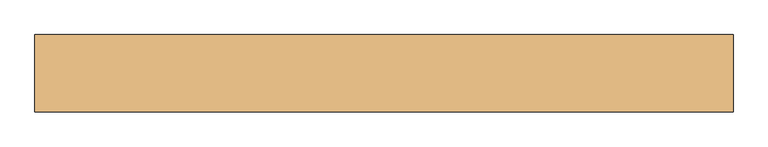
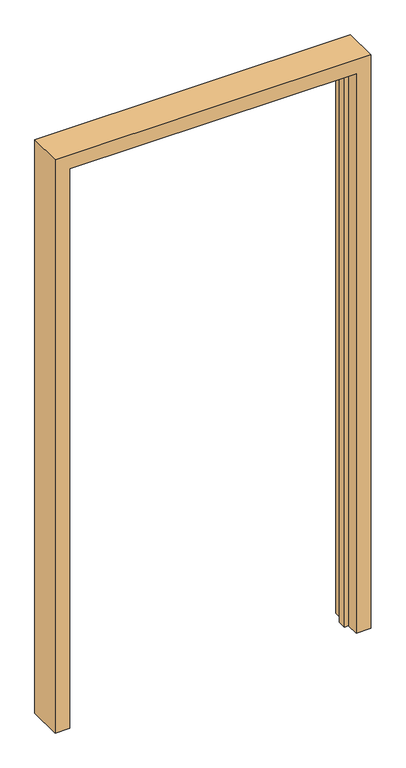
"""IFC4 building model written with IfcOpenShell, lengths in millimetres: door geometry, Door_Steel_Republic_Single-DoubleRabbet-Equal : ByType."""

from ifc_helpers import new_model, si_unit, origin, place, context, project, spatial, faceted_brep, source, transform, mapped, element, save


def door_5ed18baa(model_context):
    return source(origin(), model_context, "Body", "Brep", [
        faceted_brep([(2115.5906968, -797.6410438, 0.0), (2169.5906968, -797.6410438, 0.0), (2169.5906968, -927.6410438, 0.0), (2115.5906968, -927.6410438, 0.0), (2115.5906968, -878.4285438, 0.0), (2099.7156968, -878.4285438, 0.0), (2099.7156968, -846.8535438, 0.0), (2115.5906968, -846.8535438, 0.0), (2115.5906968, -797.6410438, 2200.0), (1048.5906968, -797.6410438, 2200.0), (1048.5906968, -797.6410438, 0.0), (994.5906968, -797.6410438, 0.0), (994.5906968, -797.6410438, 2254.0), (2169.5906968, -797.6410438, 2254.0), (2169.5906968, -927.6410438, 2254.0), (994.5906968, -927.6410438, 2254.0), (994.5906968, -927.6410438, 0.0), (1048.5906968, -927.6410438, 0.0), (1048.5906968, -927.6410438, 2200.0), (2115.5906968, -927.6410438, 2200.0), (2115.5906968, -878.4285438, 2200.0), (1048.5906968, -878.4285438, 2200.0), (1048.5906968, -878.4285438, 0.0), (1064.4656968, -878.4285438, 0.0), (1064.4656968, -878.4285438, 2184.125), (2099.7156968, -878.4285438, 2184.125), (2099.7156968, -846.8535438, 2184.125), (1064.4656968, -846.8535438, 2184.125), (1064.4656968, -846.8535438, 0.0), (1048.5906968, -846.8535438, 0.0), (1048.5906968, -846.8535438, 2200.0), (2115.5906968, -846.8535438, 2200.0)], [[[0, 1, 2, 3, 4, 5, 6, 7]], [[1, 0, 8, 9, 10, 11, 12, 13]], [[2, 1, 13, 14]], [[3, 2, 14, 15, 16, 17, 18, 19]], [[4, 3, 19, 20]], [[5, 4, 20, 21, 22, 23, 24, 25]], [[6, 5, 25, 26]], [[7, 6, 26, 27, 28, 29, 30, 31]], [[0, 7, 31, 8]], [[9, 30, 29, 10]], [[10, 29, 28, 23, 22, 17, 16, 11]], [[15, 12, 11, 16]], [[21, 18, 17, 22]], [[27, 24, 23, 28]], [[14, 13, 12, 15]], [[20, 19, 18, 21]], [[26, 25, 24, 27]], [[8, 31, 30, 9]]]),
    ])


if __name__ == "__main__":
    model = new_model("IFC4")
    model_context = context("Model", 3, world=origin())
    ifc_project = project(units=[si_unit("LENGTHUNIT", "METRE", prefix="MILLI")], contexts=[model_context])
    site = spatial("IfcSite", under=ifc_project)
    building = spatial("IfcBuilding", under=site)
    placement = place(None, origin())
    door_shape = door_5ed18baa(model_context)
    element("IfcDoor", 1, ObjectType="Door_Steel_Republic_Single-DoubleRabbet-Equal : ByType", at=placement, inside=building, context=model_context, shape_type="MappedRepresentation", body=[
        mapped(door_shape, transform((0.0, 0.0, 0.0), x_axis=(1.0, 0.0, 0.0), y_axis=(0.0, 1.0, 0.0), z_axis=(0.0, 0.0, 1.0))),
    ])
    save(model, "model.ifc")
